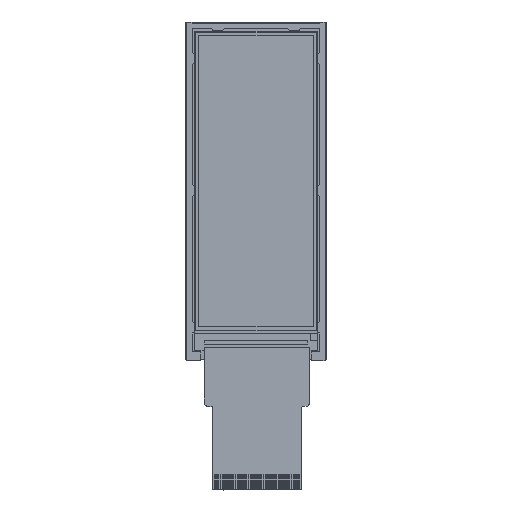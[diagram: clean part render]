
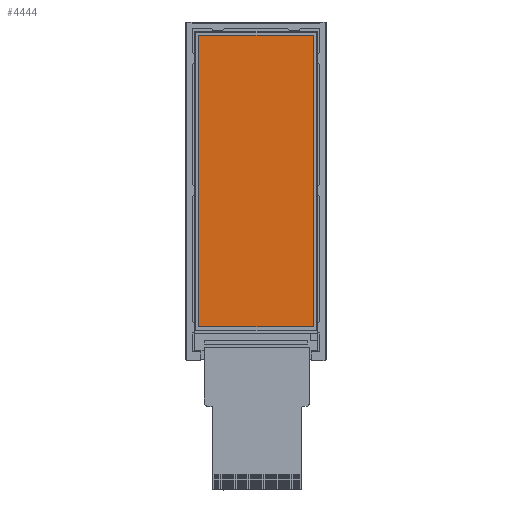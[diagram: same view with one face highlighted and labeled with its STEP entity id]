
A CAD part, top view. The second image highlights one B-rep face of the part: STEP entity #4444.
In plain terms, the highlighted planar face has unit normal (0, 0, 1).
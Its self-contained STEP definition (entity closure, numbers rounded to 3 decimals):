
#134 = DIRECTION ( 'NONE',  ( -1., 0., 0. ) ) ;
#640 = VECTOR ( 'NONE', #9908, 1000. ) ;
#710 = CARTESIAN_POINT ( 'NONE',  ( 10599.345, -3328.023, 2.21 ) ) ;
#780 = ORIENTED_EDGE ( 'NONE', *, *, #4473, .T. ) ;
#1501 = LINE ( 'NONE', #710, #1594 ) ;
#1538 = VERTEX_POINT ( 'NONE', #9393 ) ;
#1594 = VECTOR ( 'NONE', #1705, 1000. ) ;
#1705 = DIRECTION ( 'NONE',  ( 0., -1., 0. ) ) ;
#1913 = CARTESIAN_POINT ( 'NONE',  ( 10599.345, -3395.703, 2.21 ) ) ;
#2384 = EDGE_CURVE ( 'NONE', #6611, #3218, #4413, .T. ) ;
#2697 = PLANE ( 'NONE',  #9291 ) ;
#2959 = VERTEX_POINT ( 'NONE', #3902 ) ;
#3218 = VERTEX_POINT ( 'NONE', #4459 ) ;
#3366 = EDGE_LOOP ( 'NONE', ( #3518, #4505, #780, #3824 ) ) ;
#3518 = ORIENTED_EDGE ( 'NONE', *, *, #2384, .T. ) ;
#3824 = ORIENTED_EDGE ( 'NONE', *, *, #7058, .T. ) ;
#3902 = CARTESIAN_POINT ( 'NONE',  ( 10599.345, -3328.023, 2.21 ) ) ;
#4413 = LINE ( 'NONE', #5840, #640 ) ;
#4444 = ADVANCED_FACE ( 'NONE', ( #5940 ), #2697, .F. ) ;
#4459 = CARTESIAN_POINT ( 'NONE',  ( 10625.853, -3328.023, 2.21 ) ) ;
#4473 = EDGE_CURVE ( 'NONE', #2959, #1538, #1501, .T. ) ;
#4505 = ORIENTED_EDGE ( 'NONE', *, *, #5632, .T. ) ;
#5134 = VECTOR ( 'NONE', #9312, 1000. ) ;
#5155 = DIRECTION ( 'NONE',  ( -1., 0., 0. ) ) ;
#5206 = DIRECTION ( 'NONE',  ( 0., 0., -1. ) ) ;
#5632 = EDGE_CURVE ( 'NONE', #3218, #2959, #6476, .T. ) ;
#5799 = VECTOR ( 'NONE', #134, 1000. ) ;
#5840 = CARTESIAN_POINT ( 'NONE',  ( 10625.853, -3395.703, 2.21 ) ) ;
#5890 = CARTESIAN_POINT ( 'NONE',  ( 10612.599, -3395.703, 2.21 ) ) ;
#5940 = FACE_OUTER_BOUND ( 'NONE', #3366, .T. ) ;
#6326 = CARTESIAN_POINT ( 'NONE',  ( 10625.853, -3328.023, 2.21 ) ) ;
#6476 = LINE ( 'NONE', #6326, #5799 ) ;
#6611 = VERTEX_POINT ( 'NONE', #6748 ) ;
#6748 = CARTESIAN_POINT ( 'NONE',  ( 10625.853, -3395.703, 2.21 ) ) ;
#7058 = EDGE_CURVE ( 'NONE', #1538, #6611, #9928, .T. ) ;
#9291 = AXIS2_PLACEMENT_3D ( 'NONE', #5890, #5206, #5155 ) ;
#9312 = DIRECTION ( 'NONE',  ( 1., 0., 0. ) ) ;
#9393 = CARTESIAN_POINT ( 'NONE',  ( 10599.345, -3395.703, 2.21 ) ) ;
#9908 = DIRECTION ( 'NONE',  ( 0., 1., 0. ) ) ;
#9928 = LINE ( 'NONE', #1913, #5134 ) ;
